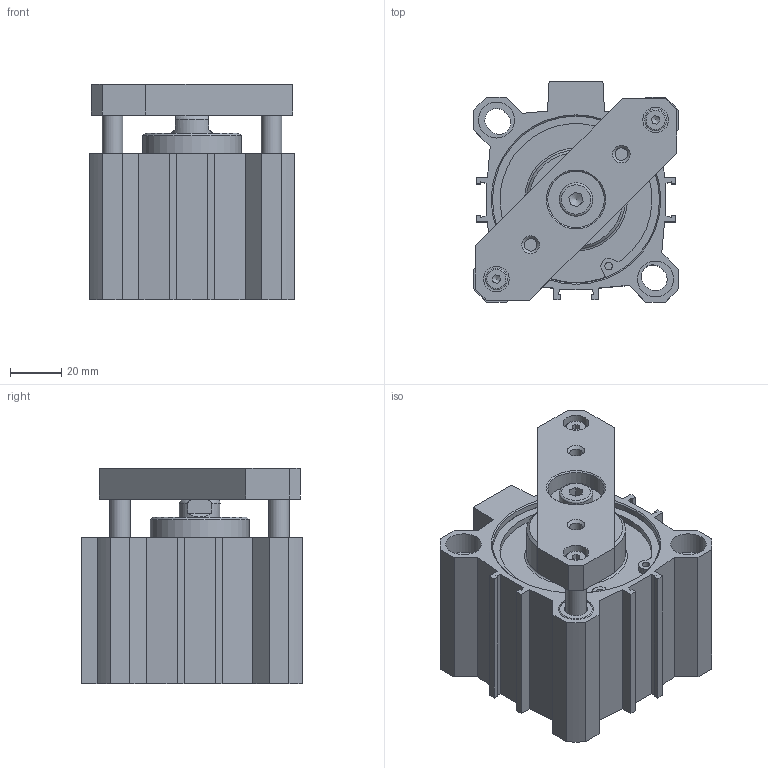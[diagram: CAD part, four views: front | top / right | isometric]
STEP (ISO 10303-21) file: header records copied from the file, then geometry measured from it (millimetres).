
FILE_DESCRIPTION(/* description */ ('Unknown'),/* implementation_level */ '2;1');
FILE_NAME(/* name */ 'FINT 63_15',/* time_stamp */ '2026-05-12T11:09:27+02:00',/* author */ ('Unknown'),/* organization */ ('Unknown'),/* preprocessor_version */ 'ST-DEVELOPER v18.102',/* originating_system */ 'Solid Edge',/* authorisation */ 'Unknown');
FILE_SCHEMA (('AUTOMOTIVE_DESIGN {1 0 10303 214 3 1 1}'));
Length unit declared in the file: millimetre
Products named in the file (7): FINT 63_15; Führungsstange; Profilrohr; Platte; Kolbenstange; Kit_1; Kit_2
Assembly tree (7 placements, depth 2):
  FINT 63_15
    Führungsstange  x2
    Profilrohr
    Platte
    Kolbenstange
    Kit_1
    Kit_2
Bounding box: 80 x 86 x 84 mm (x, y, z)
Volume: 271234.9 mm3; surface area: 100391.5 mm2
Topology: 9 solids, 10 shells, 323 faces, 760 edges, 487 vertices
Faces by surface type: plane 170, cylinder 88, cone 51, torus 14
Full cylindrical faces by diameter (mm): 3 x4, 3.2 x2, 4.134 x2, 4.917 x2, 5 x2, 5.8 x2, 6.647 x1, 8 x4, 8.25 x1, 8.5 x2, 8.566 x4, 10 x2, 13 x1, 13.8 x2, 14 x4, 16 x2, 16.54 x1, 17.7 x1, 18 x1, 20.5 x1, 22 x1, 38.5 x1, 47 x1, 63 x2, 64.7 x4, 65.1 x2, 68.2 x2
Entity records: 10521 total; most frequent: CARTESIAN_POINT 1578, DIRECTION 1454, ORIENTED_EDGE 1214, EDGE_CURVE 607, AXIS2_PLACEMENT_3D 552, FACE_BOUND 487, EDGE_LOOP 482, VERTEX_POINT 456
